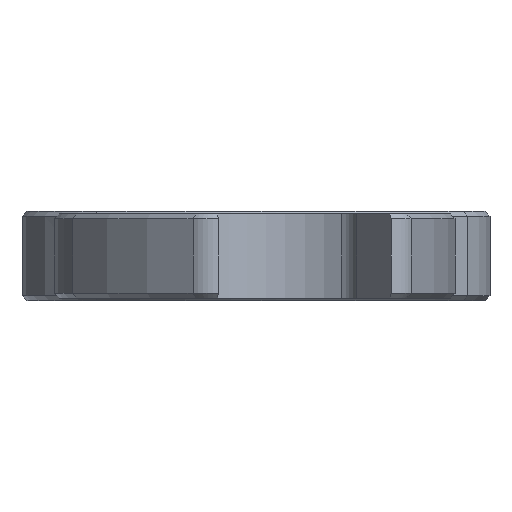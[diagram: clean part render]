
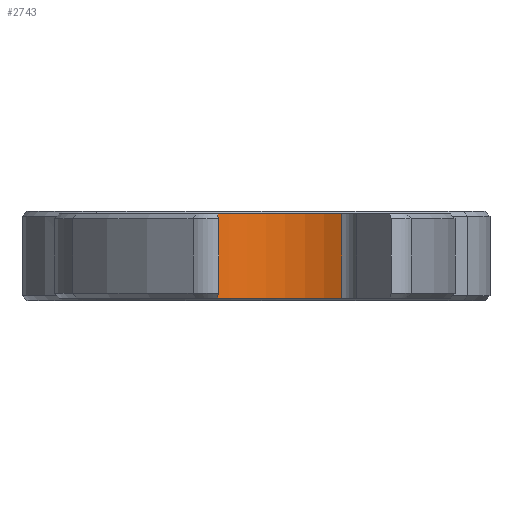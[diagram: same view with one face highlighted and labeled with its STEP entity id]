
A CAD part, left-side view. The second image highlights one B-rep face of the part: STEP entity #2743.
In plain terms, the highlighted cylindrical face has radius 11.5 mm (diameter 23 mm), a partial arc.
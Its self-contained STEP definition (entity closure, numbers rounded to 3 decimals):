
#78=CYLINDRICAL_SURFACE('',#2983,11.5);
#181=CIRCLE('',#2978,11.5);
#184=CIRCLE('',#2984,11.5);
#379=FACE_OUTER_BOUND('',#541,.T.);
#541=EDGE_LOOP('',(#2495,#2496,#2497,#2498));
#843=LINE('',#5098,#1061);
#844=LINE('',#5102,#1062);
#1061=VECTOR('',#3634,10.);
#1062=VECTOR('',#3639,10.);
#1319=VERTEX_POINT('',#5086);
#1320=VERTEX_POINT('',#5088);
#1322=VERTEX_POINT('',#5096);
#1323=VERTEX_POINT('',#5100);
#1717=EDGE_CURVE('',#1319,#1320,#181,.T.);
#1722=EDGE_CURVE('',#1319,#1322,#843,.T.);
#1723=EDGE_CURVE('',#1323,#1322,#184,.T.);
#1724=EDGE_CURVE('',#1320,#1323,#844,.T.);
#2495=ORIENTED_EDGE('',*,*,#1722,.T.);
#2496=ORIENTED_EDGE('',*,*,#1723,.F.);
#2497=ORIENTED_EDGE('',*,*,#1724,.F.);
#2498=ORIENTED_EDGE('',*,*,#1717,.F.);
#2743=ADVANCED_FACE('',(#379),#78,.F.);
#2978=AXIS2_PLACEMENT_3D('',#5089,#3622,#3623);
#2983=AXIS2_PLACEMENT_3D('',#5099,#3635,#3636);
#2984=AXIS2_PLACEMENT_3D('',#5101,#3637,#3638);
#3622=DIRECTION('center_axis',(0.,0.,1.));
#3623=DIRECTION('ref_axis',(-0.872,0.49,0.));
#3634=DIRECTION('',(0.,0.,1.));
#3635=DIRECTION('center_axis',(0.,0.,1.));
#3636=DIRECTION('ref_axis',(-0.872,0.49,0.));
#3637=DIRECTION('center_axis',(0.,0.,-1.));
#3638=DIRECTION('ref_axis',(-0.872,0.49,0.));
#3639=DIRECTION('',(0.,0.,1.));
#5086=CARTESIAN_POINT('',(-76.082,-8.61,-4.25));
#5088=CARTESIAN_POINT('',(-80.242,6.915,-4.25));
#5089=CARTESIAN_POINT('Origin',(-86.108,-2.976,-4.25));
#5096=CARTESIAN_POINT('',(-76.082,-8.61,4.25));
#5098=CARTESIAN_POINT('',(-76.082,-8.61,0.));
#5099=CARTESIAN_POINT('Origin',(-86.108,-2.976,0.));
#5100=CARTESIAN_POINT('',(-80.242,6.915,4.25));
#5101=CARTESIAN_POINT('Origin',(-86.108,-2.976,4.25));
#5102=CARTESIAN_POINT('',(-80.242,6.915,0.));
